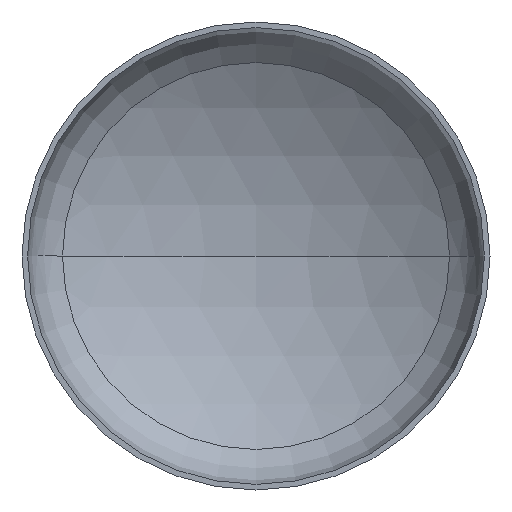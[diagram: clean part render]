
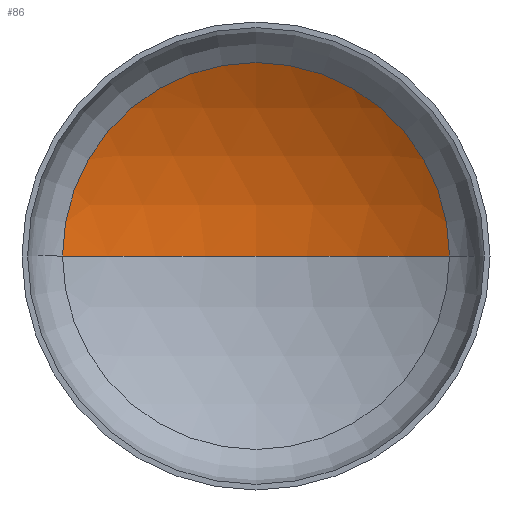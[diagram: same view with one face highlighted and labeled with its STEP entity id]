
A CAD part, front view. The second image highlights one B-rep face of the part: STEP entity #86.
In plain terms, the highlighted spherical face has radius 3600 mm.
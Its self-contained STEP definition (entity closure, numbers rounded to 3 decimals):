
#10 = AXIS2_PLACEMENT_3D ( 'NONE', #395, #261, #346 ) ;
#11 = AXIS2_PLACEMENT_3D ( 'NONE', #410, #280, #113 ) ;
#20 = EDGE_LOOP ( 'NONE', ( #114, #110, #47 ) ) ;
#23 = VERTEX_POINT ( 'NONE', #377 ) ;
#29 = VERTEX_POINT ( 'NONE', #298 ) ;
#42 = DIRECTION ( 'NONE',  ( 1., 0., 0. ) ) ;
#43 = VERTEX_POINT ( 'NONE', #267 ) ;
#47 = ORIENTED_EDGE ( 'NONE', *, *, #185, .T. ) ;
#51 = AXIS2_PLACEMENT_3D ( 'NONE', #198, #55, #42 ) ;
#55 = DIRECTION ( 'NONE',  ( 0., -1., 0. ) ) ;
#80 = AXIS2_PLACEMENT_3D ( 'NONE', #245, #263, #340 ) ;
#86 = ADVANCED_FACE ( 'NONE', ( #266 ), #140, .F. ) ;
#110 = ORIENTED_EDGE ( 'NONE', *, *, #366, .T. ) ;
#113 = DIRECTION ( 'NONE',  ( -1., 0., 0. ) ) ;
#114 = ORIENTED_EDGE ( 'NONE', *, *, #374, .F. ) ;
#140 = SPHERICAL_SURFACE ( 'NONE', #80, 3600. ) ;
#185 = EDGE_CURVE ( 'NONE', #43, #23, #242, .T. ) ;
#198 = CARTESIAN_POINT ( 'NONE',  ( 0., 715.038, 0. ) ) ;
#242 = CIRCLE ( 'NONE', #51, 1860.103 ) ;
#245 = CARTESIAN_POINT ( 'NONE',  ( 0., -2367.172, 0. ) ) ;
#261 = DIRECTION ( 'NONE',  ( 0., 0., 1. ) ) ;
#263 = DIRECTION ( 'NONE',  ( 0., 0., -1. ) ) ;
#266 = FACE_OUTER_BOUND ( 'NONE', #20, .T. ) ;
#267 = CARTESIAN_POINT ( 'NONE',  ( 1860.103, 715.038, 0. ) ) ;
#280 = DIRECTION ( 'NONE',  ( 0., 0., -1. ) ) ;
#298 = CARTESIAN_POINT ( 'NONE',  ( 0., 1232.828, 0. ) ) ;
#327 = CIRCLE ( 'NONE', #11, 3600. ) ;
#340 = DIRECTION ( 'NONE',  ( -1., 0., 0. ) ) ;
#346 = DIRECTION ( 'NONE',  ( 1., 0., 0. ) ) ;
#366 = EDGE_CURVE ( 'NONE', #29, #43, #327, .T. ) ;
#374 = EDGE_CURVE ( 'NONE', #29, #23, #380, .T. ) ;
#377 = CARTESIAN_POINT ( 'NONE',  ( -1860.103, 715.038, 0. ) ) ;
#380 = CIRCLE ( 'NONE', #10, 3600. ) ;
#395 = CARTESIAN_POINT ( 'NONE',  ( 0., -2367.172, 0. ) ) ;
#410 = CARTESIAN_POINT ( 'NONE',  ( 0., -2367.172, 0. ) ) ;
